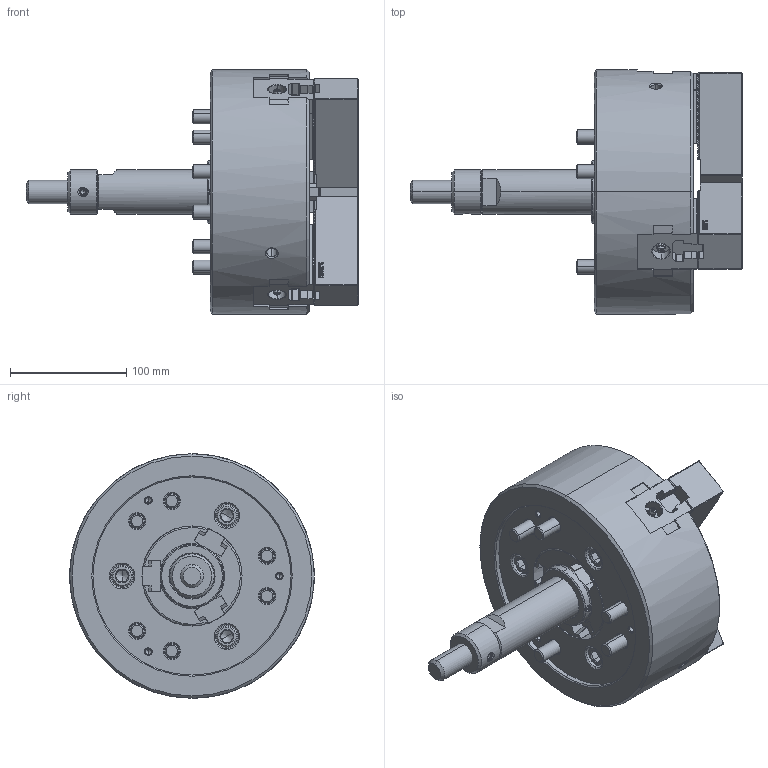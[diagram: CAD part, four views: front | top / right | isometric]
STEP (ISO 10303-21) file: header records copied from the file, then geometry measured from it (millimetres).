
FILE_DESCRIPTION (( 'STEP AP214' ), '1' );
FILE_NAME ('DT1_N-08_OUTSIDE_VIEW_OC.STEP', '2026-03-13T04:48:44', ( '' ), ( '' ), 'SwSTEP 2.0', 'SolidWorks 2022', '' );
FILE_SCHEMA (( 'AUTOMOTIVE_DESIGN' ));
Length unit declared in the file: millimetre
Products named in the file (11): DT1_N-08_TNUT^DT1_N-08; DT1_N-08_M12x85^DT1_N-08; DT1_N-08_BASE^DT1_N-08; DT1_N-08_SOFTJAW^DT1_N-08; DT1_N-08_DRAWSCREW^DT1_N-08; DT1_N-08_M12x35^DT1_N-08; Copy of 61P310518^DT1_N-08; DT1_N-08_OUTSIDE_VIEW_OC; DT1_N-08_M5x12^DT1_N-08; DT1_N-08_DN^DT1_N-08; DT1_N-08_COVER^DT1_N-08
Assembly tree (26 placements, depth 2):
  DT1_N-08_OUTSIDE_VIEW_OC
    DT1_N-08_SOFTJAW^DT1_N-08  x3
    DT1_N-08_TNUT^DT1_N-08  x3
    DT1_N-08_COVER^DT1_N-08
    DT1_N-08_DRAWSCREW^DT1_N-08
    Copy of 61P310518^DT1_N-08
    DT1_N-08_DN^DT1_N-08
    DT1_N-08_BASE^DT1_N-08
    DT1_N-08_M5x12^DT1_N-08  x3
    DT1_N-08_M12x35^DT1_N-08  x6
    DT1_N-08_M12x85^DT1_N-08  x6
Bounding box: 285 x 210 x 210 mm (x, y, z)
Volume: 3191437 mm3; surface area: 387095.4 mm2
Topology: 26 solids, 26 shells, 4675 faces, 13146 edges, 8612 vertices
Faces by surface type: plane 2684, cylinder 1150, bspline 427, cone 350, torus 58, sphere 6
Entity records: 106958 total; most frequent: CARTESIAN_POINT 33847, ORIENTED_EDGE 16684, DIRECTION 12834, EDGE_CURVE 8342, LINE 5802, VECTOR 5802, VERTEX_POINT 5472, AXIS2_PLACEMENT_3D 3516
